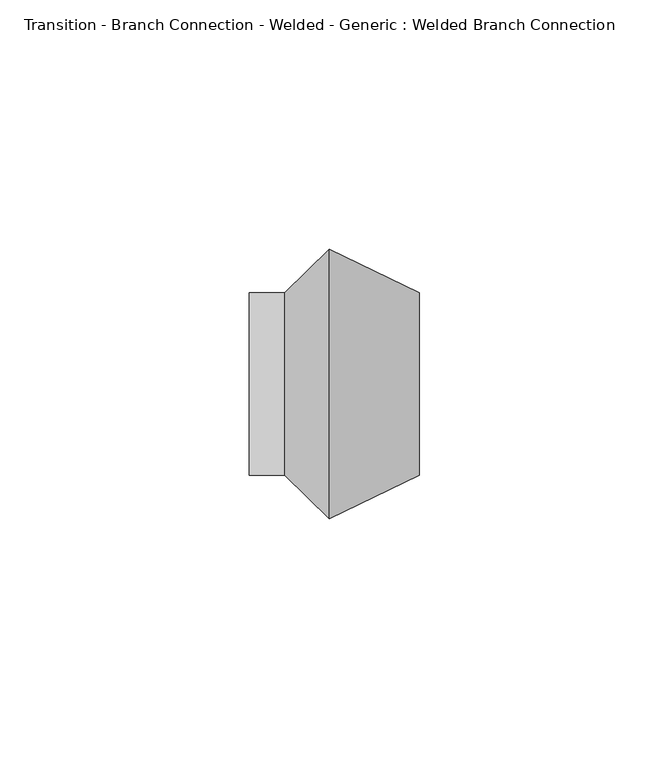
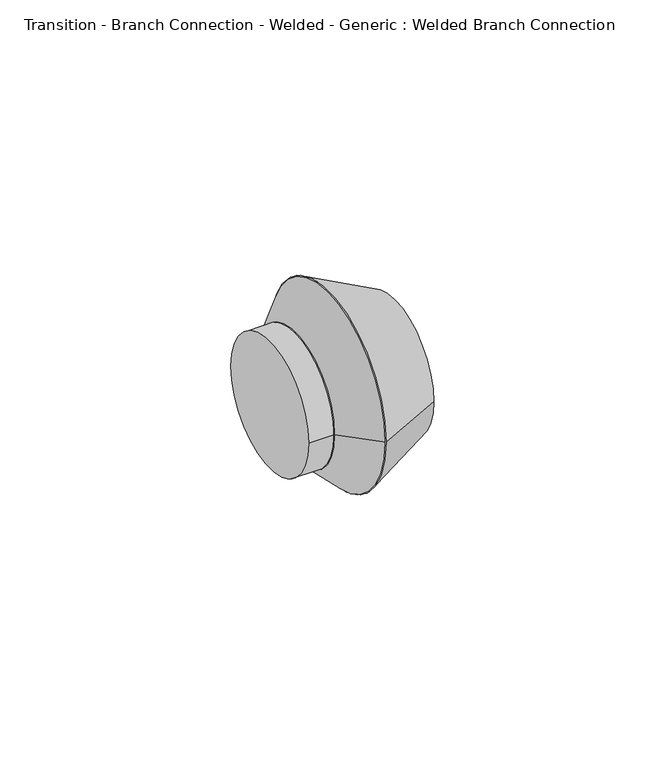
"""IFC4 building model written with IfcOpenShell, lengths in millimetres: pipe fitting geometry, Transition - Branch Connection - Welded - Generic : Welded Branch Connection."""

import ifcopenshell
import ifcopenshell.guid

model = None  # the IFC model being written
_history = None  # IfcOwnerHistory: only IFC2X3 demands one
_inside = {}  # id of a spatial element -> (the spatial element, [elements in it])
_under = {}  # id of a project, library or spatial element -> (it, [spatial elements below it])
_declared = {}  # id of a project -> (the project, [libraries it declares])
_typed = {}  # id of a type object -> (the type object, [elements of that type])
_made_of = {}  # id of a material, layer set ... -> (it, [elements and type objects made of it])


def new_model(schema):
    """Start an empty IFC model of exactly this schema.

    Asked for "IFC4X3", IfcOpenShell would pick the latest addendum, in which some entities
    have other attributes; the version numbers below select the first issue.
    IFC2X3 requires an IfcOwnerHistory on every rooted entity: one is made here for all.
    """
    global model, _history
    if schema == "IFC4X3":
        model = ifcopenshell.file(schema_version=(4, 3, 0, 0))
    else:
        model = ifcopenshell.file(schema=schema)
    _inside.clear()
    _under.clear()
    _declared.clear()
    _typed.clear()
    _made_of.clear()
    _history = None
    if model.schema == "IFC2X3":
        org = make("IfcOrganization", Name="unknown")
        user = make(
            "IfcPersonAndOrganization",
            ThePerson=make("IfcPerson", FamilyName="unknown"),
            TheOrganization=org,
        )
        app = make(
            "IfcApplication",
            ApplicationDeveloper=org,
            Version="unknown",
            ApplicationFullName="unknown",
            ApplicationIdentifier="unknown",
        )
        _history = make(
            "IfcOwnerHistory",
            OwningUser=user,
            OwningApplication=app,
            ChangeAction="ADDED",
            CreationDate=0,
        )
    return model


def make(cls, **values):
    """One entity of the class cls with the attributes given. An attribute that is None is left unset."""
    return model.create_entity(
        cls, **{name: value for name, value in values.items() if value is not None}
    )


def rooted(cls, **values):
    """An entity with a GlobalId (a new one), such as an element, a storey or a relation."""
    return make(cls, GlobalId=ifcopenshell.guid.new(), OwnerHistory=_history, **values)


def si_unit(unit_type, name, prefix=None):
    """IfcSIUnit, for example si_unit("LENGTHUNIT", "METRE", prefix="MILLI")."""
    return make("IfcSIUnit", UnitType=unit_type, Prefix=prefix, Name=name)


def assignment(units):
    """IfcUnitAssignment: the units of a project."""
    return None if units is None else make("IfcUnitAssignment", Units=units)


def point(xyz):
    """IfcCartesianPoint."""
    return None if xyz is None else make("IfcCartesianPoint", Coordinates=xyz)


def direction(xyz):
    """IfcDirection."""
    return None if xyz is None else make("IfcDirection", DirectionRatios=xyz)


def frame(location, z_axis=None, x_axis=None):
    """IfcAxis2Placement3D, a coordinate frame: its origin and axes. An axis left out is left unset."""
    return make(
        "IfcAxis2Placement3D",
        Location=point(location),
        Axis=direction(z_axis),
        RefDirection=direction(x_axis),
    )


def frame_2d(location, x_axis=None):
    """IfcAxis2Placement2D, a coordinate frame in the plane: its origin and x axis."""
    return make(
        "IfcAxis2Placement2D", Location=point(location), RefDirection=direction(x_axis)
    )


def origin():
    """The frame at (0, 0, 0) with its axes left unset."""
    return frame((0.0, 0.0, 0.0))


def origin_2d():
    """The frame at (0, 0) in the plane with its x axis left unset."""
    return frame_2d((0.0, 0.0))


def place(relative_to, where):
    """IfcLocalPlacement: puts the frame where relative to a parent placement (None: the world)."""
    return make(
        "IfcLocalPlacement", PlacementRelTo=relative_to, RelativePlacement=where
    )


def context(
    kind, dimensions, precision=None, world=None, true_north=None, identifier=None
):
    """IfcGeometricRepresentationContext, for example the 3D "Model" context."""
    return make(
        "IfcGeometricRepresentationContext",
        ContextIdentifier=identifier,
        ContextType=kind,
        CoordinateSpaceDimension=dimensions,
        Precision=precision,
        WorldCoordinateSystem=world,
        TrueNorth=true_north,
    )


def project(units=None, contexts=None):
    """IfcProject with its units and contexts."""
    return rooted(
        "IfcProject",
        Name="project",
        RepresentationContexts=contexts,
        UnitsInContext=assignment(units),
    )


def spatial(cls, under=None, at=None, **own):
    """A site, building, storey or space (cls), placed at a placement, below another one or the project."""
    s = rooted(cls, ObjectPlacement=at, **own)
    if under is not None:
        _under.setdefault(under.id(), (under, []))[1].append(s)
    return s


def polyline(points):
    """IfcPolyline through the points."""
    return make("IfcPolyline", Points=[point(p) for p in points])


def circle_curve(where, radius):
    """IfcCircle in the frame where."""
    return make("IfcCircle", Position=where, Radius=radius)


def trimmed(basis, trim1, trim2, sense, master):
    """IfcTrimmedCurve: the piece of a basis curve between two trims."""
    return make(
        "IfcTrimmedCurve",
        BasisCurve=basis,
        Trim1=trim1,
        Trim2=trim2,
        SenseAgreement=sense,
        MasterRepresentation=master,
    )


def segment(curve, same_sense, transition):
    """IfcCompositeCurveSegment."""
    return make(
        "IfcCompositeCurveSegment",
        Transition=transition,
        SameSense=same_sense,
        ParentCurve=curve,
    )


def composite_curve(segments, self_intersect=None):
    """IfcCompositeCurve: segments joined end to end."""
    return make("IfcCompositeCurve", Segments=segments, SelfIntersect=self_intersect)


def outline(outer, holes=None, kind="AREA"):
    """IfcArbitraryClosedProfileDef: a profile drawn as a closed curve; with holes, ...WithVoids."""
    if holes is None:
        return make("IfcArbitraryClosedProfileDef", ProfileType=kind, OuterCurve=outer)
    return make(
        "IfcArbitraryProfileDefWithVoids",
        ProfileType=kind,
        OuterCurve=outer,
        InnerCurves=holes,
    )


def extrude(swept, where, along, depth):
    """IfcExtrudedAreaSolid: the profile swept, set in the frame where, extruded along a direction by depth."""
    return make(
        "IfcExtrudedAreaSolid",
        SweptArea=swept,
        Position=where,
        ExtrudedDirection=direction(along),
        Depth=depth,
    )


def shape(context_of_items, identifier, shape_type, items):
    """IfcShapeRepresentation: the items that make up one representation, for example the "Body"."""
    return make(
        "IfcShapeRepresentation",
        ContextOfItems=context_of_items,
        RepresentationIdentifier=identifier,
        RepresentationType=shape_type,
        Items=items,
    )


def source(mapping_origin, context_of_items, identifier, shape_type, items):
    """IfcRepresentationMap: a shape defined once, which mapped items show again and again."""
    return make(
        "IfcRepresentationMap",
        MappingOrigin=mapping_origin,
        MappedRepresentation=shape(context_of_items, identifier, shape_type, items),
    )


def transform(
    local_origin,
    x_axis=None,
    y_axis=None,
    z_axis=None,
    scale=None,
    scale2=None,
    scale3=None,
    uniform=True,
):
    """IfcCartesianTransformationOperator3D, or its non-uniform kind. x_axis, y_axis, z_axis: its Axis1, 2, 3."""
    if uniform:
        return make(
            "IfcCartesianTransformationOperator3D",
            Axis1=direction(x_axis),
            Axis2=direction(y_axis),
            LocalOrigin=point(local_origin),
            Scale=scale,
            Axis3=direction(z_axis),
        )
    return make(
        "IfcCartesianTransformationOperator3DnonUniform",
        Axis1=direction(x_axis),
        Axis2=direction(y_axis),
        LocalOrigin=point(local_origin),
        Scale=scale,
        Axis3=direction(z_axis),
        Scale2=scale2,
        Scale3=scale3,
    )


def mapped(mapping_source, mapping_target):
    """IfcMappedItem: shows the shape of a source again, moved by a transform."""
    return make(
        "IfcMappedItem", MappingSource=mapping_source, MappingTarget=mapping_target
    )


def made_of(thing, what):
    """Note that an element or type object is made of a material, layer set ...; save() writes the relation."""
    if what is not None:
        _made_of.setdefault(what.id(), (what, []))[1].append(thing)
    return thing


def element(
    cls,
    number,
    at=None,
    inside=None,
    cuts=None,
    type_object=None,
    material=None,
    context=None,
    identifier="Body",
    shape_type=None,
    held_by="IfcProductDefinitionShape",
    body=None,
    shapes=None,
    **own,
):
    """One element of the class cls, such as IfcWall. Its Tag is "e" and its number.

    at: its placement. inside: the storey or other place that contains it. cuts: it is an
    opening in that element (IfcRelVoidsElement). A single representation is given by context,
    identifier, shape_type and body (its items); several are given by shapes. held_by: the class
    of the entity that holds the representations. save() writes the other relations.
    """
    e = rooted(cls, Tag="e%d" % number, ObjectPlacement=at, **own)
    if body is not None:
        shapes = [shape(context, identifier, shape_type, body)]
    if shapes is not None:
        e.Representation = make(held_by, Representations=shapes)
    if inside is not None:
        _inside.setdefault(inside.id(), (inside, []))[1].append(e)
    if cuts is not None:
        rooted(
            "IfcRelVoidsElement", RelatingBuildingElement=cuts, RelatedOpeningElement=e
        )
    if type_object is not None:
        _typed.setdefault(type_object.id(), (type_object, []))[1].append(e)
    return made_of(e, material)


def aggregate(whole, parts):
    """IfcRelAggregates: a whole, such as a stair, and the parts it consists of."""
    return rooted("IfcRelAggregates", RelatingObject=whole, RelatedObjects=parts)


def save(model, path):
    """Write the relations noted so far, then the file.

    IfcRelAggregates (storeys below a building ...), IfcRelContainedInSpatialStructure (elements
    in a storey), IfcRelDefinesByType, IfcRelAssociatesMaterial and IfcRelDeclares: one each for
    every whole, place, type object, material and project.
    """
    for whole, parts in _under.values():
        aggregate(whole, parts)
    for where, things in _inside.values():
        rooted(
            "IfcRelContainedInSpatialStructure",
            RelatedElements=things,
            RelatingStructure=where,
        )
    for kind, things in _typed.values():
        rooted("IfcRelDefinesByType", RelatedObjects=things, RelatingType=kind)
    for what, things in _made_of.values():
        rooted("IfcRelAssociatesMaterial", RelatedObjects=things, RelatingMaterial=what)
    for by, libraries in _declared.values():
        rooted("IfcRelDeclares", RelatingContext=by, RelatedDefinitions=libraries)
    model.write(path)


def plane_surface(at):
    """IfcPlane: the flat surface through the origin of the frame at, square to its z axis."""
    return make("IfcPlane", Position=at)


def revolved_surface(curve, axis_point, axis_direction):
    """IfcSurfaceOfRevolution: the curve turned about the line through axis_point along axis_direction."""
    return make(
        "IfcSurfaceOfRevolution",
        SweptCurve=make("IfcArbitraryOpenProfileDef", ProfileType="CURVE", Curve=curve),
        AxisPosition=make("IfcAxis1Placement", Location=point(axis_point), Axis=direction(axis_direction)),
    )


def advanced_brep(points, edges, surfaces, faces):
    """IfcAdvancedBrep: a solid bounded by faces that lie on surfaces and meet in shared edges.

    An edge is (start, end): straight between two places in points (the first is 0);
    or (start, end, curve); or (start, end, curve, False) where it runs against its curve.
    A face is (place in surfaces, loops), or (place, loops, False) where it looks against
    its surface's normal. A loop lists edges by number (the first is 1), with a minus sign
    where the edge is run from its end to its start. The first loop is the outer one.
    """
    corners = [point(p) for p in points]
    vertices = [make("IfcVertexPoint", VertexGeometry=c) for c in corners]
    made = []
    for start, end, *more in edges:
        made.append(
            make(
                "IfcEdgeCurve",
                EdgeStart=vertices[start],
                EdgeEnd=vertices[end],
                EdgeGeometry=more[0] if more else make("IfcPolyline", Points=[corners[start], corners[end]]),
                SameSense=more[1] if len(more) > 1 else True,
            )
        )
    hull = []
    for where, loops, *sense in faces:
        bounds = []
        for j, loop in enumerate(loops):
            ring = [make("IfcOrientedEdge", EdgeElement=made[abs(k) - 1], Orientation=k > 0) for k in loop]
            bounds.append(
                make(
                    "IfcFaceOuterBound" if j == 0 else "IfcFaceBound",
                    Bound=make("IfcEdgeLoop", EdgeList=ring),
                    Orientation=True,
                )
            )
        hull.append(make("IfcAdvancedFace", Bounds=bounds, FaceSurface=surfaces[where], SameSense=sense[0] if sense else True))
    return make("IfcAdvancedBrep", Outer=make("IfcClosedShell", CfsFaces=hull))


def transition_branch_connection_welded_generic_welded_branch_48d092b7(model_context):
    return source(origin(), model_context, "Body", "SolidModel", [
        advanced_brep(
        [(8.9958333, 26.9875, 0.0), (8.9958333, -26.9875, 0.0), (26.9875, 18.25625, 0.0), (26.9875, -18.25625, 0.0)],
        [
            (0, 1, circle_curve(frame((8.9958333, 0.0, 0.0), z_axis=(-1.0, 0.0, 0.0), x_axis=(0.0, -1.0, 0.0)), 26.9875)),
            (1, 0, circle_curve(frame((8.9958333, 0.0, 0.0), z_axis=(-1.0, 0.0, 0.0), x_axis=(0.0, 1.0, 0.0)), 26.9875)),
            (2, 3, circle_curve(frame((26.9875, 0.0, 0.0), z_axis=(1.0, 0.0, 0.0), x_axis=(0.0, 1.0, 0.0)), 18.25625)),
            (3, 2, circle_curve(frame((26.9875, 0.0, 0.0), z_axis=(1.0, 0.0, 0.0), x_axis=(0.0, -1.0, 0.0)), 18.25625)),
            (3, 1),
            (0, 2),
        ],
        [
            plane_surface(frame((8.9958333, 0.0, 0.0), z_axis=(-1.0, 0.0, 0.0), x_axis=(0.0, 0.0, -1.0))),
            plane_surface(frame((26.9875, 0.0, 0.0), z_axis=(1.0, 0.0, 0.0), x_axis=(0.0, 0.0, -1.0))),
            revolved_surface(polyline([(26.987499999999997, -18.25624999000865, 0.0), (8.995833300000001, -26.9875, 0.0)]), (64.6064394, 0.0, 0.0), (-1.0, 0.0, 0.0)),
            revolved_surface(polyline([(26.987499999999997, 18.25624999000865, 0.0), (8.995833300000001, 26.9875, 0.0)]), (64.6064394, 0.0, 0.0), (-1.0, 0.0, 0.0)),
        ],
        [
            (0, [[1, 2]]),
            (1, [[3, 4]]),
            (2, [[5, -1, 6, -4]]),
            (3, [[-6, -2, -5, -3]]),
        ],
    ),
        advanced_brep(
        [(8.9958333, 26.9875, 0.0), (8.9958333, -26.9875, 0.0), (0.0, 18.25625, 0.0), (0.0, -18.25625, 0.0)],
        [
            (0, 1, circle_curve(frame((8.9958333, 0.0, 0.0), z_axis=(1.0, 0.0, 0.0), x_axis=(0.0, -1.0, 0.0)), 26.9875)),
            (1, 0, circle_curve(frame((8.9958333, 0.0, 0.0), z_axis=(1.0, 0.0, 0.0), x_axis=(0.0, 1.0, 0.0)), 26.9875)),
            (2, 3, circle_curve(frame((0.0, 0.0, 0.0), z_axis=(-1.0, 0.0, 0.0), x_axis=(0.0, 1.0, 0.0)), 18.25625)),
            (3, 2, circle_curve(frame((0.0, 0.0, 0.0), z_axis=(-1.0, 0.0, 0.0), x_axis=(0.0, -1.0, 0.0)), 18.25625)),
            (2, 0),
            (1, 3),
        ],
        [
            plane_surface(frame((8.9958333, 0.0, 0.0), z_axis=(1.0, 0.0, 0.0), x_axis=(0.0, 0.0, -1.0))),
            plane_surface(frame((0.0, 0.0, 0.0), z_axis=(-1.0, 0.0, 0.0), x_axis=(0.0, 0.0, -1.0))),
            revolved_surface(polyline([(0.0, 18.25625002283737, 0.0), (8.995833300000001, 26.9875, 0.0)]), (-18.8094697, 0.0, 0.0), (1.0, 0.0, 0.0)),
            revolved_surface(polyline([(0.0, -18.25625002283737, 0.0), (8.995833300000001, -26.9875, 0.0)]), (-18.8094697, 0.0, 0.0), (1.0, 0.0, 0.0)),
        ],
        [
            (0, [[1, 2]]),
            (1, [[3, 4]]),
            (2, [[5, -2, 6, -3]]),
            (3, [[-6, -1, -5, -4]]),
        ],
    ),
        extrude(outline(composite_curve([segment(trimmed(circle_curve(origin_2d(), 18.25625), [point((18.25625, 0.0))], [point((-18.25625, 0.0))], False, "CARTESIAN"), True, "CONTINUOUS"), segment(trimmed(circle_curve(origin_2d(), 18.25625), [point((-18.25625, 0.0))], [point((18.25625, 0.0))], False, "CARTESIAN"), True, "CONTINUOUS")], self_intersect=False)), frame((-7.0603769, 0.0, 0.0), z_axis=(1.0, 0.0, 0.0), x_axis=(0.0, 1.0, 0.0)), (0.0, 0.0, 1.0), 7.0603769),
    ])


if __name__ == "__main__":
    model = new_model("IFC4")
    model_context = context("Model", 3, world=origin())
    ifc_project = project(units=[si_unit("LENGTHUNIT", "METRE", prefix="MILLI")], contexts=[model_context])
    site = spatial("IfcSite", under=ifc_project)
    building = spatial("IfcBuilding", under=site)
    placement = place(None, origin())
    transition_branch_connection_welded_generic_welded_branch_shape = transition_branch_connection_welded_generic_welded_branch_48d092b7(model_context)
    element("IfcPipeFitting", 1, ObjectType="Transition - Branch Connection - Welded - Generic : Welded Branch Connection", at=placement, inside=building, context=model_context, shape_type="MappedRepresentation", body=[
        mapped(transition_branch_connection_welded_generic_welded_branch_shape, transform((0.0, 0.0, 0.0), x_axis=(1.0, 0.0, 0.0), y_axis=(0.0, 1.0, 0.0), z_axis=(0.0, 0.0, 1.0))),
    ])
    save(model, "model.ifc")
